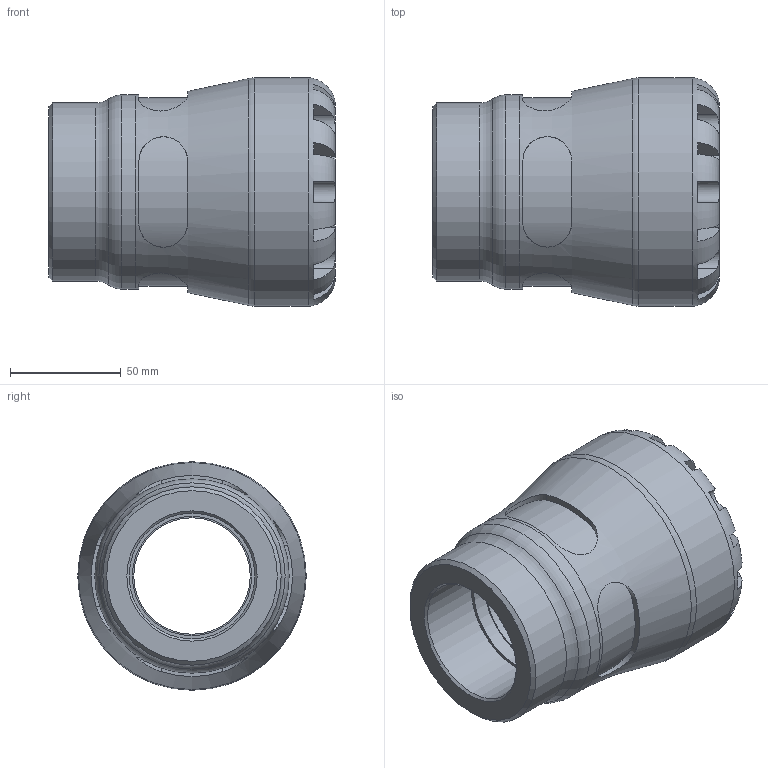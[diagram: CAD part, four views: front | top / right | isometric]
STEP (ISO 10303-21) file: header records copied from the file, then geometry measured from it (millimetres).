
FILE_DESCRIPTION(/* description */ ('PLASSON FEMALE ADAPTOR 63X2" SERIES 1'),/* implementation_level */ '2;1');
FILE_NAME(/* name */ 'C:\Dropbox\KIMPROJECTS-Inventor\99-16-3568-Processing\1003\100300063020_190300063020.ipt.step',/* time_stamp */ '2017-01-22T09:49:32+02:00',/* author */ ('KIM'),/* organization */ (''),/* preprocessor_version */ 'ST-DEVELOPER v15.6',/* originating_system */ 'Autodesk Inventor 2015',/* authorisation */ '');
FILE_SCHEMA (('AUTOMOTIVE_DESIGN { 1 0 10303 214 3 1 1 }'));
Length unit declared in the file: millimetre
Products named in the file (1): 100300063020_190300063020
Bounding box: 129 x 103 x 103 mm (x, y, z)
Volume: 474468.5 mm3; surface area: 73298.4 mm2
Topology: 1 solids, 1 shells, 104 faces, 255 edges, 159 vertices
Faces by surface type: plane 61, cylinder 35, torus 5, cone 3
Full cylindrical faces by diameter (mm): 52.5 x1, 53.823 x1, 56.656 x1, 63 x1, 80.34 x1, 87.55 x1, 103 x1
Entity records: 3918 total; most frequent: CARTESIAN_POINT 1479, DIRECTION 472, ORIENTED_EDGE 470, EDGE_CURVE 235, AXIS2_PLACEMENT_3D 196, VERTEX_POINT 155, EDGE_LOOP 128, STYLED_ITEM 105
